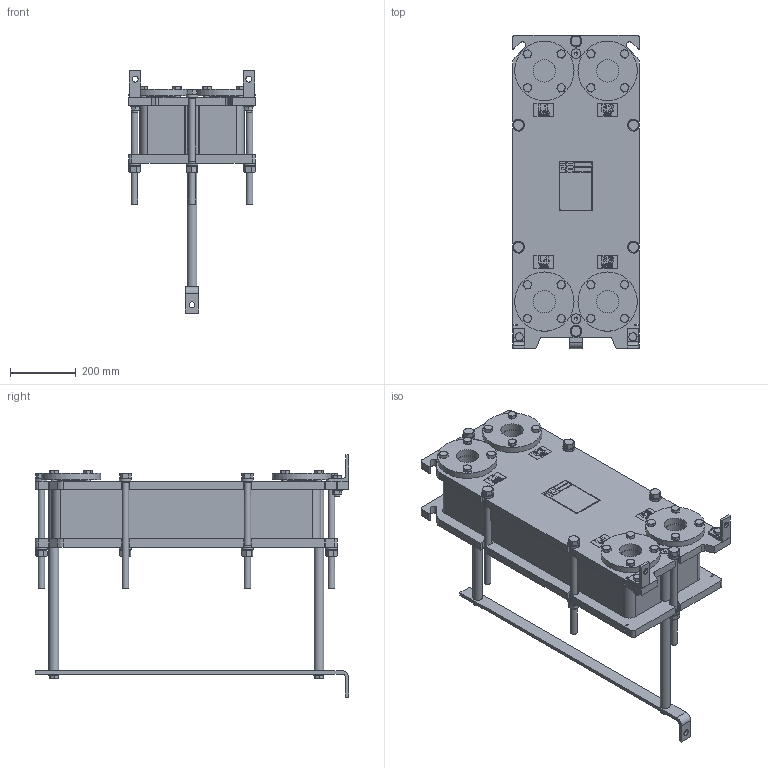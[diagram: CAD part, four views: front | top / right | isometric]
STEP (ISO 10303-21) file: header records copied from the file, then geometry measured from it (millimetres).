
FILE_DESCRIPTION (( 'STEP AP214' ), '1' );
FILE_NAME ('ÏÒ N65 ðåä 7 ê ñèãìà 51...80.STEP', '2021-04-11T15:56:31', ( '' ), ( '' ), 'SwSTEP 2.0', 'SolidWorks 2018', '' );
FILE_SCHEMA (( 'AUTOMOTIVE_DESIGN' ));
Length unit declared in the file: millimetre
Products named in the file (3): ÏÒ N65 ðåä 7 ê ñèãìà 51...80; ÏÒ N65 ðåä 7 ê ñèãìà2 51...80; ÏÒ N65 ðåä 7 ê ñèãìà1
Assembly tree (2 placements, depth 2):
  ÏÒ N65 ðåä 7 ê ñèãìà 51...80
    ÏÒ N65 ðåä 7 ê ñèãìà2 51...80
    ÏÒ N65 ðåä 7 ê ñèãìà1
Bounding box: 385 x 950 x 735 mm (x, y, z)
Volume: 57218691.8 mm3; surface area: 3225615.9 mm2
Topology: 28 solids, 34 shells, 1966 faces, 4807 edges, 3068 vertices
Faces by surface type: plane 1010, cone 414, bspline 275, cylinder 235, torus 32
Full cylindrical faces by diameter (mm): 16 x44, 17 x4, 18 x25, 20 x11, 21 x11, 27 x11, 29.48 x2, 30 x8, 36 x11, 68 x12, 68.01 x4, 121 x4, 180 x4
Entity records: 86984 total; most frequent: CARTESIAN_POINT 23276, ORIENTED_EDGE 8804, DIRECTION 7612, EDGE_CURVE 4402, VERTEX_POINT 2974, AXIS2_PLACEMENT_3D 2636, EDGE_LOOP 2540, LINE 2340
